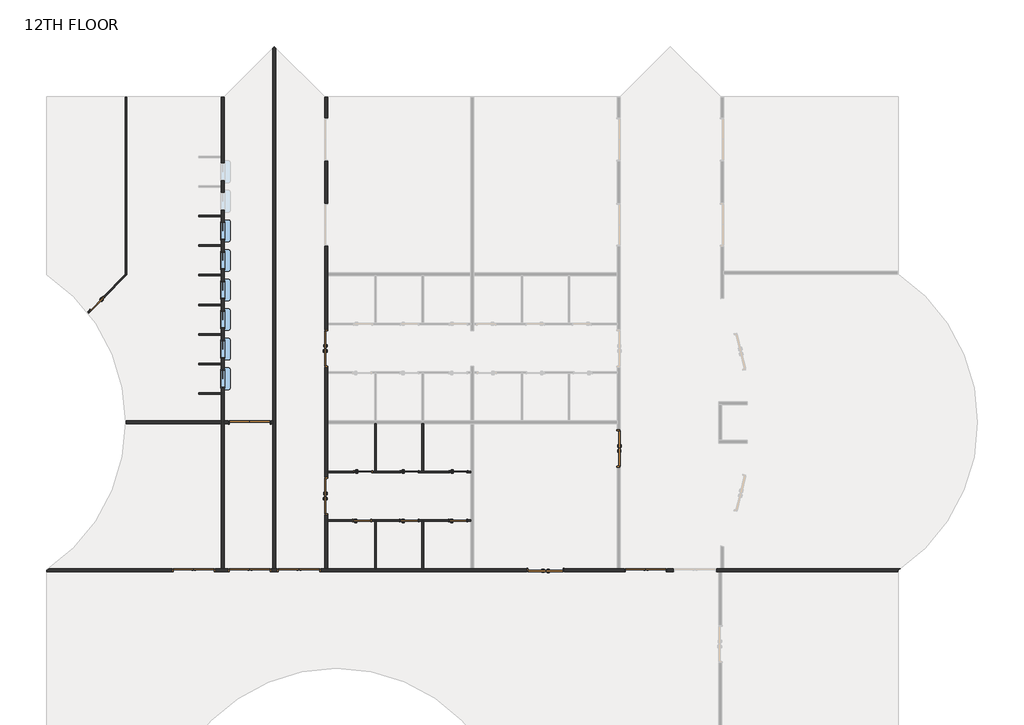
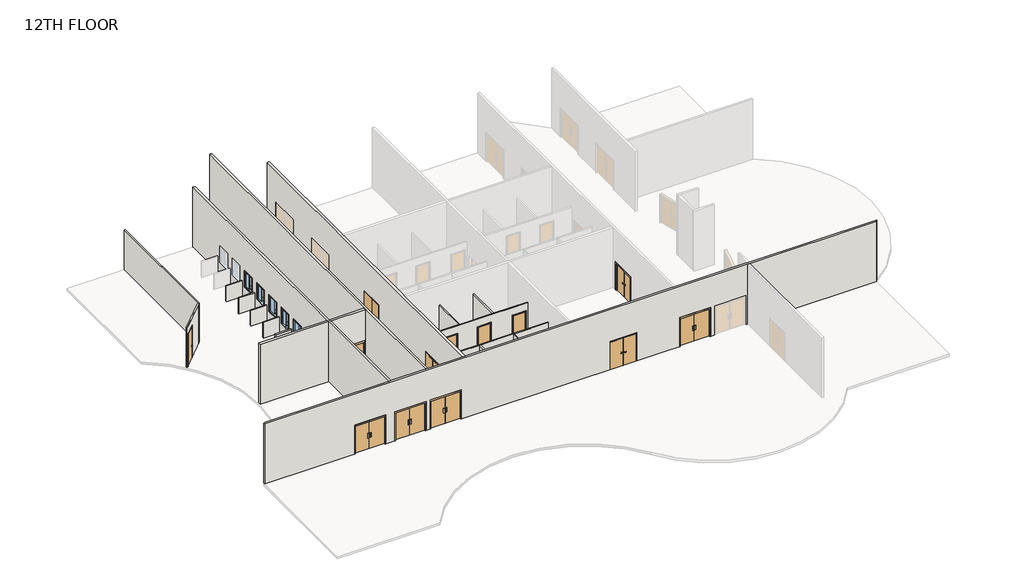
# One storey, part 1 of 2: 20 walls, 16 doors, 6 windows.
"""IFC4 building model written with IfcOpenShell, lengths in millimetres."""

from ifc_helpers import new_model, si_unit, point, frame, frame_2d, origin, place, context, project, spatial, polyline, circle_curve, trimmed, segment, composite_curve, outline, extrude, faceted_brep, transform, mapped, element, save
from ifc_brep_helpers import plane_surface, cylinder_surface, revolved_surface, advanced_brep
from components import door_2f250f70, door_0b13e4d9, door_b3a27a16, door_979b1b8c, door_f8b587be, pass_thru_4x3_19d81059

model = new_model("IFC4")

# Units and contexts
model_context = context("Model", 3, world=origin())
ifc_project = project(units=[si_unit("LENGTHUNIT", "METRE", prefix="MILLI")], contexts=[model_context])

# Site, building, storey
site = spatial("IfcSite", under=ifc_project)
building = spatial("IfcBuilding", under=site)
storey = spatial("IfcBuildingStorey", under=building, Name="12TH FLOOR", Elevation=54864.0)

# Doors
placement = place(None, origin())
door_shape = door_2f250f70(model_context)
element("IfcDoor", 1, ObjectType="Door-Passage-Double-Flush : 72\" x 82\"", at=placement, inside=storey, context=model_context, shape_type="MappedRepresentation", body=[
    mapped(door_shape, transform((14556.3400257, 13109.575, 54864.0), x_axis=(0.0, 1.0, 0.0), y_axis=(-1.0, 0.0, 0.0), z_axis=(0.0, 0.0, 1.0))),
])
element("IfcDoor", 2, ObjectType="Door-Passage-Double-Flush : 72\" x 82\"", at=placement, inside=storey, context=model_context, shape_type="MappedRepresentation", body=[
    mapped(door_shape, transform((14556.3400257, 20729.575, 54864.0), x_axis=(0.0, 1.0, 0.0), y_axis=(-1.0, 0.0, 0.0), z_axis=(0.0, 0.0, 1.0))),
])
element("IfcDoor", 3, ObjectType="Door-Passage-Double-Flush : 72\" x 82\"", at=placement, inside=storey, context=model_context, shape_type="MappedRepresentation", body=[
    mapped(door_shape, transform((25872.8337757, 9305.925, 54864.0), x_axis=(-1.0, 0.0, 0.0), y_axis=(0.0, -1.0, 0.0), z_axis=(0.0, 0.0, 1.0))),
])
element("IfcDoor", 4, ObjectType="Door-Passage-Double-Flush : 72\" x 82\"", at=placement, inside=storey, context=model_context, shape_type="MappedRepresentation", body=[
    mapped(door_shape, transform((29628.0650257, 15571.7875, 54864.0), x_axis=(0.0, -1.0, 0.0), y_axis=(1.0, 0.0, 0.0), z_axis=(0.0, 0.0, 1.0))),
])
door_2_shape = door_0b13e4d9(model_context)
element("IfcDoor", 5, ObjectType="Door-Passage-Double-Flush-Dbl_Acting : 84\" x 84\"", at=placement, inside=storey, context=model_context, shape_type="MappedRepresentation", body=[
    mapped(door_2_shape, transform((13151.4025257, 9293.225, 54864.0), x_axis=(-1.0, 0.0, 0.0), y_axis=(0.0, -1.0, 0.0), z_axis=(0.0, 0.0, 1.0))),
])
door_3_shape = door_b3a27a16(model_context)
element("IfcDoor", 6, ObjectType="Door-Passage-Double-Flush-Dbl_Acting : 84\" x 84\"", at=placement, inside=storey, context=model_context, shape_type="MappedRepresentation", body=[
    mapped(door_3_shape, transform((31033.0025257, 9293.225, 54864.0), x_axis=(1.0, 0.0, 0.0), y_axis=(0.0, 1.0, 0.0), z_axis=(0.0, 0.0, 1.0))),
])
element("IfcDoor", 7, ObjectType="Door-Passage-Double-Flush-Dbl_Acting : 84\" x 84\"", at=placement, inside=storey, context=model_context, shape_type="MappedRepresentation", body=[
    mapped(door_3_shape, transform((10620.375, 9293.225, 54864.0), x_axis=(1.0, 0.0, 0.0), y_axis=(0.0, 1.0, 0.0), z_axis=(0.0, 0.0, 1.0))),
])
element("IfcDoor", 8, ObjectType="Door-Passage-Double-Flush-Dbl_Acting : 84\" x 84\"", at=placement, inside=storey, context=model_context, shape_type="MappedRepresentation", body=[
    mapped(door_3_shape, transform((7730.5724743, 9293.225, 54864.0), x_axis=(1.0, 0.0, 0.0), y_axis=(0.0, 1.0, 0.0), z_axis=(0.0, 0.0, 1.0))),
])
element("IfcDoor", 9, ObjectType="Door-Passage-Double-Flush-Dbl_Acting : 84\" x 84\"", at=placement, inside=storey, context=model_context, shape_type="MappedRepresentation", body=[
    mapped(door_3_shape, transform((10620.375, 16913.225, 54864.0), x_axis=(1.0, 0.0, 0.0), y_axis=(0.0, 1.0, 0.0), z_axis=(0.0, 0.0, 1.0))),
])
door_4_shape = door_979b1b8c(model_context)
element("IfcDoor", 10, ObjectType="Door-Passage-Single-Flush : 36\" x 96\"", at=placement, inside=storey, context=model_context, shape_type="MappedRepresentation", body=[
    mapped(door_4_shape, transform((16456.5775257, 14357.35, 54864.0), x_axis=(1.0, 0.0, 0.0), y_axis=(0.0, 1.0, 0.0), z_axis=(0.0, 0.0, 1.0))),
])
element("IfcDoor", 11, ObjectType="Door-Passage-Single-Flush : 36\" x 96\"", at=placement, inside=storey, context=model_context, shape_type="MappedRepresentation", body=[
    mapped(door_4_shape, transform((18855.2900257, 14357.35, 54864.0), x_axis=(1.0, 0.0, 0.0), y_axis=(0.0, 1.0, 0.0), z_axis=(0.0, 0.0, 1.0))),
])
element("IfcDoor", 12, ObjectType="Door-Passage-Single-Flush : 36\" x 96\"", at=placement, inside=storey, context=model_context, shape_type="MappedRepresentation", body=[
    mapped(door_4_shape, transform((21373.0650257, 14357.35, 54864.0), x_axis=(1.0, 0.0, 0.0), y_axis=(0.0, 1.0, 0.0), z_axis=(0.0, 0.0, 1.0))),
])
element("IfcDoor", 13, ObjectType="Door-Passage-Single-Flush : 36\" x 96\"", at=placement, inside=storey, context=model_context, shape_type="MappedRepresentation", body=[
    mapped(door_4_shape, transform((2731.3607977, 23031.2061406, 54864.0), x_axis=(-0.7071067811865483, -0.7071067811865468, 0.0), y_axis=(0.7071067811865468, -0.7071067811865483, 0.0), z_axis=(0.0, 0.0, 1.0))),
])
door_5_shape = door_f8b587be(model_context)
element("IfcDoor", 14, ObjectType="Door-Passage-Single-Flush : 36\" x 96\"", at=placement, inside=storey, context=model_context, shape_type="MappedRepresentation", body=[
    mapped(door_5_shape, transform((16405.7775257, 11861.8, 54864.0), x_axis=(1.0, 0.0, 0.0), y_axis=(0.0, 1.0, 0.0), z_axis=(0.0, 0.0, 1.0))),
])
element("IfcDoor", 15, ObjectType="Door-Passage-Single-Flush : 36\" x 96\"", at=placement, inside=storey, context=model_context, shape_type="MappedRepresentation", body=[
    mapped(door_5_shape, transform((18836.2400257, 11861.8, 54864.0), x_axis=(1.0, 0.0, 0.0), y_axis=(0.0, 1.0, 0.0), z_axis=(0.0, 0.0, 1.0))),
])
element("IfcDoor", 16, ObjectType="Door-Passage-Single-Flush : 36\" x 96\"", at=placement, inside=storey, context=model_context, shape_type="MappedRepresentation", body=[
    mapped(door_5_shape, transform((21354.0150257, 11861.8, 54864.0), x_axis=(1.0, 0.0, 0.0), y_axis=(0.0, 1.0, 0.0), z_axis=(0.0, 0.0, 1.0))),
])

# Walls
element("IfcWall", 17, ObjectType="SYR_INT_ONE_HOUR", at=placement, inside=storey, context=model_context, shape_type="SweptSolid", body=[
    extrude(outline(polyline([(17066.1775257, 14403.3875), (17066.1775257, 16841.7875), (17145.5525257, 16841.7875), (17145.5525257, 14403.3875), (17066.1775257, 14403.3875)])), frame((0.0, 0.0, 54864.0), z_axis=(0.0, 0.0, 1.0), x_axis=(1.0, 0.0, 0.0)), (0.0, 0.0, 1.0), 3048.0),
])
element("IfcWall", 18, ObjectType="SYR_INT_ONE_HOUR", at=placement, inside=storey, context=model_context, shape_type="SweptSolid", body=[
    extrude(outline(polyline([(19576.0150257, 11815.7625), (19576.0150257, 9377.3625), (19496.6400257, 9377.3625), (19496.6400257, 11815.7625), (19576.0150257, 11815.7625)])), frame((0.0, 0.0, 54864.0), z_axis=(0.0, 0.0, 1.0), x_axis=(1.0, 0.0, 0.0)), (0.0, 0.0, 1.0), 3048.0),
])
element("IfcWall", 19, ObjectType="SYR_INT_ONE_HOUR", at=placement, inside=storey, context=model_context, shape_type="Brep", body=[
    faceted_brep([(14627.7775257, 14403.3875, 57912.0), (17066.1775257, 14403.3875, 57912.0), (17145.5525257, 14403.3875, 57912.0), (19496.6400257, 14403.3875, 57912.0), (19576.0150257, 14403.3875, 57912.0), (22014.4150257, 14403.3875, 57912.0), (22014.4150257, 14403.3875, 54864.0), (21862.0150257, 14403.3875, 54864.0), (21862.0150257, 14403.3875, 57334.15), (20884.1150257, 14403.3875, 57334.15), (20884.1150257, 14403.3875, 54864.0), (19576.0150257, 14403.3875, 54864.0), (19496.6400257, 14403.3875, 54864.0), (19344.2400257, 14403.3875, 54864.0), (19344.2400257, 14403.3875, 57334.15), (18366.3400257, 14403.3875, 57334.15), (18366.3400257, 14403.3875, 54864.0), (17145.5525257, 14403.3875, 54864.0), (17066.1775257, 14403.3875, 54864.0), (16945.5275257, 14403.3875, 54864.0), (16945.5275257, 14403.3875, 57334.15), (15967.6275257, 14403.3875, 57334.15), (15967.6275257, 14403.3875, 54864.0), (14627.7775257, 14403.3875, 54864.0), (22014.4150257, 14324.0125, 57912.0), (14627.7775257, 14324.0125, 57912.0), (14627.7775257, 14324.0125, 54864.0), (15967.6275257, 14324.0125, 54864.0), (15967.6275257, 14324.0125, 57334.15), (16945.5275257, 14324.0125, 57334.15), (16945.5275257, 14324.0125, 54864.0), (18366.3400257, 14324.0125, 54864.0), (18366.3400257, 14324.0125, 57334.15), (19344.2400257, 14324.0125, 57334.15), (19344.2400257, 14324.0125, 54864.0), (20884.1150257, 14324.0125, 54864.0), (20884.1150257, 14324.0125, 57334.15), (21862.0150257, 14324.0125, 57334.15), (21862.0150257, 14324.0125, 54864.0), (22014.4150257, 14324.0125, 54864.0)], [[[0, 1, 2, 3, 4, 5, 6, 7, 8, 9, 10, 11, 12, 13, 14, 15, 16, 17, 18, 19, 20, 21, 22, 23]], [[24, 25, 26, 27, 28, 29, 30, 31, 32, 33, 34, 35, 36, 37, 38, 39]], [[6, 39, 38, 7]], [[26, 23, 22, 27]], [[30, 19, 18, 17, 16, 31]], [[34, 13, 12, 11, 10, 35]], [[5, 4, 3, 2, 1, 0, 25, 24]], [[0, 23, 26, 25]], [[6, 5, 24, 39]], [[29, 20, 19, 30]], [[20, 29, 28, 21]], [[21, 28, 27, 22]], [[14, 13, 34, 33]], [[15, 14, 33, 32]], [[16, 15, 32, 31]], [[37, 8, 7, 38]], [[8, 37, 36, 9]], [[9, 36, 35, 10]]]),
])
element("IfcWall", 20, ObjectType="SYR_INT_ONE_HOUR", at=placement, inside=storey, context=model_context, shape_type="Brep", body=[
    faceted_brep([(14627.7775257, 11895.1375, 57912.0), (22014.4150257, 11895.1375, 57912.0), (22014.4150257, 11895.1375, 54864.0), (21842.9650257, 11895.1375, 54864.0), (21842.9650257, 11895.1375, 57334.15), (20865.0650257, 11895.1375, 57334.15), (20865.0650257, 11895.1375, 54864.0), (19325.1900257, 11895.1375, 54864.0), (19325.1900257, 11895.1375, 57334.15), (18347.2900257, 11895.1375, 57334.15), (18347.2900257, 11895.1375, 54864.0), (16894.7275257, 11895.1375, 54864.0), (16894.7275257, 11895.1375, 57334.15), (15916.8275257, 11895.1375, 57334.15), (15916.8275257, 11895.1375, 54864.0), (14627.7775257, 11895.1375, 54864.0), (22014.4150257, 11815.7625, 57912.0), (19576.0150257, 11815.7625, 57912.0), (19496.6400257, 11815.7625, 57912.0), (17145.5525257, 11815.7625, 57912.0), (17066.1775257, 11815.7625, 57912.0), (14627.7775257, 11815.7625, 57912.0), (14627.7775257, 11815.7625, 54864.0), (15916.8275257, 11815.7625, 54864.0), (15916.8275257, 11815.7625, 57334.15), (16894.7275257, 11815.7625, 57334.15), (16894.7275257, 11815.7625, 54864.0), (17066.1775257, 11815.7625, 54864.0), (17145.5525257, 11815.7625, 54864.0), (18347.2900257, 11815.7625, 54864.0), (18347.2900257, 11815.7625, 57334.15), (19325.1900257, 11815.7625, 57334.15), (19325.1900257, 11815.7625, 54864.0), (19496.6400257, 11815.7625, 54864.0), (19576.0150257, 11815.7625, 54864.0), (20865.0650257, 11815.7625, 54864.0), (20865.0650257, 11815.7625, 57334.15), (21842.9650257, 11815.7625, 57334.15), (21842.9650257, 11815.7625, 54864.0), (22014.4150257, 11815.7625, 54864.0)], [[[0, 1, 2, 3, 4, 5, 6, 7, 8, 9, 10, 11, 12, 13, 14, 15]], [[16, 17, 18, 19, 20, 21, 22, 23, 24, 25, 26, 27, 28, 29, 30, 31, 32, 33, 34, 35, 36, 37, 38, 39]], [[2, 39, 38, 3]], [[22, 15, 14, 23]], [[26, 11, 10, 29, 28, 27]], [[32, 7, 6, 35, 34, 33]], [[1, 0, 21, 20, 19, 18, 17, 16]], [[0, 15, 22, 21]], [[2, 1, 16, 39]], [[25, 12, 11, 26]], [[12, 25, 24, 13]], [[13, 24, 23, 14]], [[31, 8, 7, 32]], [[8, 31, 30, 9]], [[9, 30, 29, 10]], [[37, 4, 3, 38]], [[4, 37, 36, 5]], [[5, 36, 35, 6]]]),
])
element("IfcWall", 21, ObjectType="SYR_INT_ONE_HOUR", at=placement, inside=storey, context=model_context, shape_type="SweptSolid", body=[
    extrude(outline(polyline([(17066.1775257, 9377.3625), (17066.1775257, 11815.7625), (17145.5525257, 11815.7625), (17145.5525257, 9377.3625), (17066.1775257, 9377.3625)])), frame((0.0, 0.0, 54864.0), z_axis=(0.0, 0.0, 1.0), x_axis=(1.0, 0.0, 0.0)), (0.0, 0.0, 1.0), 3048.0),
])
element("IfcWall", 22, ObjectType="SYR_INT_ONE_HOUR", at=placement, inside=storey, context=model_context, shape_type="SweptSolid", body=[
    extrude(outline(polyline([(19576.0150257, 16841.7875), (19576.0150257, 14403.3875), (19496.6400257, 14403.3875), (19496.6400257, 16841.7875), (19576.0150257, 16841.7875)])), frame((0.0, 0.0, 54864.0), z_axis=(0.0, 0.0, 1.0), x_axis=(1.0, 0.0, 0.0)), (0.0, 0.0, 1.0), 3048.0),
])
element("IfcWall", 23, ObjectType="SYR_INT_ONE_HOUR", at=placement, inside=storey, context=model_context, shape_type="SweptSolid", body=[
    extrude(outline(polyline([(7979.2710938, 18443.575), (9144.0, 18443.575), (9144.0, 18364.2), (7979.2710938, 18364.2), (7979.2710938, 18443.575)])), frame((0.0, 0.0, 54864.0), z_axis=(0.0, 0.0, 1.0), x_axis=(1.0, 0.0, 0.0)), (0.0, 0.0, 1.0), 1219.2),
])
element("IfcWall", 24, ObjectType="SYR_INT_ONE_HOUR", at=placement, inside=storey, context=model_context, shape_type="SweptSolid", body=[
    extrude(outline(polyline([(7979.2710938, 19967.575), (9144.0, 19967.575), (9144.0, 19888.2), (7979.2710938, 19888.2), (7979.2710938, 19967.575)])), frame((0.0, 0.0, 54864.0), z_axis=(0.0, 0.0, 1.0), x_axis=(1.0, 0.0, 0.0)), (0.0, 0.0, 1.0), 1219.2),
])
element("IfcWall", 25, ObjectType="SYR_INT_ONE_HOUR", at=placement, inside=storey, context=model_context, shape_type="SweptSolid", body=[
    extrude(outline(polyline([(7979.2710938, 21491.575), (9144.0, 21491.575), (9144.0, 21412.2), (7979.2710938, 21412.2), (7979.2710938, 21491.575)])), frame((0.0, 0.0, 54864.0), z_axis=(0.0, 0.0, 1.0), x_axis=(1.0, 0.0, 0.0)), (0.0, 0.0, 1.0), 1219.2),
])
element("IfcWall", 26, ObjectType="SYR_INT_ONE_HOUR", at=placement, inside=storey, context=model_context, shape_type="SweptSolid", body=[
    extrude(outline(polyline([(7979.2710938, 23015.575), (9144.0, 23015.575), (9144.0, 22936.2), (7979.2710938, 22936.2), (7979.2710938, 23015.575)])), frame((0.0, 0.0, 54864.0), z_axis=(0.0, 0.0, 1.0), x_axis=(1.0, 0.0, 0.0)), (0.0, 0.0, 1.0), 1219.2),
])
element("IfcWall", 27, ObjectType="SYR_INT_ONE_HOUR", at=placement, inside=storey, context=model_context, shape_type="SweptSolid", body=[
    extrude(outline(polyline([(7979.2710938, 24539.575), (9144.0, 24539.575), (9144.0, 24460.2), (7979.2710938, 24460.2), (7979.2710938, 24539.575)])), frame((0.0, 0.0, 54864.0), z_axis=(0.0, 0.0, 1.0), x_axis=(1.0, 0.0, 0.0)), (0.0, 0.0, 1.0), 1219.2),
])
element("IfcWall", 28, ObjectType="SYR_INT_ONE_HOUR", at=placement, inside=storey, context=model_context, shape_type="SweptSolid", body=[
    extrude(outline(polyline([(7979.2710938, 26063.575), (9144.0, 26063.575), (9144.0, 25984.2), (7979.2710938, 25984.2), (7979.2710938, 26063.575)])), frame((0.0, 0.0, 54864.0), z_axis=(0.0, 0.0, 1.0), x_axis=(1.0, 0.0, 0.0)), (0.0, 0.0, 1.0), 1219.2),
])
element("IfcWall", 29, ObjectType="SYR_INT_ONE_HOUR", at=placement, inside=storey, context=model_context, shape_type="SweptSolid", body=[
    extrude(outline(polyline([(7979.2710938, 27587.575), (9144.0, 27587.575), (9144.0, 27508.2), (7979.2710938, 27508.2), (7979.2710938, 27587.575)])), frame((0.0, 0.0, 54864.0), z_axis=(0.0, 0.0, 1.0), x_axis=(1.0, 0.0, 0.0)), (0.0, 0.0, 1.0), 1219.2),
])
element("IfcWall", 30, ObjectType="SYR_INT_ONE_HOUR", at=placement, inside=storey, context=model_context, shape_type="Brep", body=[
    faceted_brep([(4209.0224132, 33683.575, 54864.0), (4209.0224132, 24556.0141008, 54864.0), (4209.0224132, 24443.7608992, 54864.0), (4209.0224132, 24443.7608992, 57912.0), (4209.0224132, 24556.0141008, 57912.0), (4209.0224132, 33683.575, 57912.0), (4288.3974132, 33683.575, 54864.0), (4288.3974132, 33683.575, 57912.0), (4288.3974132, 24523.1358992, 57912.0), (4288.3974132, 24523.1358992, 54864.0)], [[[0, 1, 2, 3, 4, 5]], [[6, 7, 8, 9]], [[2, 1, 0, 6, 9]], [[5, 4, 3, 8, 7]], [[3, 2, 9, 8]], [[0, 5, 7, 6]]]),
])
element("IfcWall", 31, ObjectType="SYR_INT_ONE_HOUR", at=placement, inside=storey, context=model_context, shape_type="AdvancedBrep", body=[
    advanced_brep(
    [(2260.5955581, 22607.5872456, 57912.0), (4209.0224132, 24556.0141008, 57912.0), (4209.0224132, 24556.0141008, 54864.0), (3053.527486, 23400.5191735, 54864.0), (3053.527486, 23400.5191735, 57334.15), (2362.0477647, 22709.0394522, 57334.15), (2362.0477647, 22709.0394522, 54864.0), (2260.5955581, 22607.5872456, 54864.0), (4209.0224132, 24443.7608992, 57912.0), (2310.04482, 22544.783306, 57912.0), (2310.04482, 22544.783306, 54864.0), (2418.1743655, 22652.9128515, 54864.0), (2418.1743655, 22652.9128515, 57334.15), (3109.6540868, 23344.3925728, 57334.15), (3109.6540868, 23344.3925728, 54864.0), (4209.0224132, 24443.7608992, 54864.0)],
    [
        (0, 1),
        (1, 2),
        (2, 3),
        (3, 4),
        (4, 5),
        (5, 6),
        (6, 7),
        (7, 0),
        (8, 9),
        (9, 10),
        (10, 11),
        (11, 12),
        (12, 13),
        (13, 14),
        (14, 15),
        (15, 8),
        (2, 15),
        (14, 3),
        (10, 7, circle_curve(frame((-4898.9611805, 16919.575, 54864.0), z_axis=(0.0, 0.0, 1.0), x_axis=(1.0, 0.0, 0.0)), 9144.0)),
        (6, 11),
        (0, 9, circle_curve(frame((-4898.9611805, 16919.575, 57912.0), z_axis=(0.0, 0.0, -1.0), x_axis=(1.0, 0.0, 0.0)), 9144.0)),
        (8, 1),
        (5, 12),
        (4, 13),
    ],
    [
        plane_surface(frame((4220.6466129, 24567.6383004, 54864.0), z_axis=(-0.7071067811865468, 0.7071067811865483, 0.0), x_axis=(-0.7071067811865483, -0.7071067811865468, 0.0))),
        plane_surface(frame((4276.7732136, 24511.5116996, 54864.0), z_axis=(0.7071067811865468, -0.7071067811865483, 0.0), x_axis=(0.7071067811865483, 0.7071067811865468, 0.0))),
        plane_surface(frame((4220.6466129, 24567.6383004, 54864.0), z_axis=(0.0, 0.0, -1.0), x_axis=(0.7071067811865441, -0.7071067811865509, 0.0))),
        plane_surface(frame((2146.5216178, 22493.5133053, 57912.0), z_axis=(0.0, 0.0, 1.0000000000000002), x_axis=(0.7071067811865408, -0.7071067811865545, 0.0))),
        plane_surface(frame((4209.0224132, 33778.5769531, 54864.0), z_axis=(1.0, 0.0, 0.0), x_axis=(0.0, -1.0, 0.0))),
        plane_surface(frame((1284.4170302, 23786.6701867, 54864.0), z_axis=(0.7071067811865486, 0.7071067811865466, 0.0), x_axis=(0.7071067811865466, -0.7071067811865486, 0.0))),
        plane_surface(frame((1284.4170302, 23786.6701867, 57334.15), z_axis=(0.0, 0.0, -1.0), x_axis=(0.7071067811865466, -0.7071067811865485, 0.0))),
        plane_surface(frame((1975.8967515, 24478.1499081, 57334.15), z_axis=(-0.7071067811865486, -0.7071067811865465, 0.0), x_axis=(0.7071067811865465, -0.7071067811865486, 0.0))),
        revolved_surface(polyline([(4245.0388195, 16919.575, 57912.0), (4245.0388195, 16919.575, 54864.0)]), (-4898.9611805, 16919.575, 0.0), (0.0, 0.0, 1.0)),
    ],
    [
        (0, [[1, 2, 3, 4, 5, 6, 7, 8]]),
        (1, [[9, 10, 11, 12, 13, 14, 15, 16]]),
        (2, [[17, -15, 18, -3]]),
        (2, [[19, -7, 20, -11]]),
        (3, [[-1, 21, -9, 22]]),
        (4, [[-2, -22, -16, -17]]),
        (5, [[23, -12, -20, -6]]),
        (6, [[-23, -5, 24, -13]]),
        (7, [[-24, -4, -18, -14]]),
        (8, [[-8, -19, -10, -21]]),
    ],
),
])
element("IfcWall", 32, ObjectType="SYR_INT_TWO_HOUR", at=placement, inside=storey, context=model_context, shape_type="AdvancedBrep", body=[
    advanced_brep(
    [(270.9292057, 9377.3625, 59436.0), (9144.0, 9377.3625, 59436.0), (9299.575, 9377.3625, 59436.0), (11808.1012629, 9377.3625, 59436.0), (11963.6762629, 9377.3625, 59436.0), (14472.2025257, 9377.3625, 59436.0), (14627.7775257, 9377.3625, 59436.0), (22014.4150257, 9377.3625, 59436.0), (22169.9900257, 9377.3625, 59436.0), (29556.6275257, 9377.3625, 59436.0), (29712.2025257, 9377.3625, 59436.0), (34884.8300515, 9377.3625, 59436.0), (35040.4050515, 9377.3625, 59436.0), (44144.1842571, 9377.3625, 59436.0), (44144.1842571, 9377.3625, 54864.0), (35040.4050515, 9377.3625, 54864.0), (34884.8300515, 9377.3625, 54864.0), (34681.6300515, 9377.3625, 54864.0), (34681.6300515, 9377.3625, 57099.2), (32446.4300515, 9377.3625, 57099.2), (32446.4300515, 9377.3625, 54864.0), (32150.6025257, 9377.3625, 54864.0), (32150.6025257, 9377.3625, 57099.2), (29915.4025257, 9377.3625, 57099.2), (29915.4025257, 9377.3625, 54864.0), (29712.2025257, 9377.3625, 54864.0), (29556.6275257, 9377.3625, 54864.0), (26838.0337757, 9377.3625, 54864.0), (26838.0337757, 9377.3625, 57048.4), (24907.6337757, 9377.3625, 57048.4), (24907.6337757, 9377.3625, 54864.0), (22169.9900257, 9377.3625, 54864.0), (22014.4150257, 9377.3625, 54864.0), (19576.0150257, 9377.3625, 54864.0), (19496.6400257, 9377.3625, 54864.0), (17145.5525257, 9377.3625, 54864.0), (17066.1775257, 9377.3625, 54864.0), (14627.7775257, 9377.3625, 54864.0), (14472.2025257, 9377.3625, 54864.0), (14269.0025257, 9377.3625, 54864.0), (14269.0025257, 9377.3625, 57099.2), (12033.8025257, 9377.3625, 57099.2), (12033.8025257, 9377.3625, 54864.0), (11963.6762629, 9377.3625, 54864.0), (11808.1012629, 9377.3625, 54864.0), (11737.975, 9377.3625, 54864.0), (11737.975, 9377.3625, 57099.2), (9502.775, 9377.3625, 57099.2), (9502.775, 9377.3625, 54864.0), (9299.575, 9377.3625, 54864.0), (9144.0, 9377.3625, 54864.0), (8848.1724743, 9377.3625, 54864.0), (8848.1724743, 9377.3625, 57099.2), (6612.9724743, 9377.3625, 57099.2), (6612.9724743, 9377.3625, 54864.0), (270.9292057, 9377.3625, 54864.0), (155.575, 9221.7875, 59436.0), (155.575, 9221.7875, 54864.0), (6612.9724743, 9221.7875, 54864.0), (6612.9724743, 9221.7875, 57099.2), (8848.1724743, 9221.7875, 57099.2), (8848.1724743, 9221.7875, 54864.0), (9502.775, 9221.7875, 54864.0), (9502.775, 9221.7875, 57099.2), (11737.975, 9221.7875, 57099.2), (11737.975, 9221.7875, 54864.0), (12033.8025257, 9221.7875, 54864.0), (12033.8025257, 9221.7875, 57099.2), (14269.0025257, 9221.7875, 57099.2), (14269.0025257, 9221.7875, 54864.0), (24907.6337757, 9221.7875, 54864.0), (24907.6337757, 9221.7875, 57048.4), (26838.0337757, 9221.7875, 57048.4), (26838.0337757, 9221.7875, 54864.0), (29915.4025257, 9221.7875, 54864.0), (29915.4025257, 9221.7875, 57099.2), (32150.6025257, 9221.7875, 57099.2), (32150.6025257, 9221.7875, 54864.0), (32446.4300515, 9221.7875, 54864.0), (32446.4300515, 9221.7875, 57099.2), (34681.6300515, 9221.7875, 57099.2), (34681.6300515, 9221.7875, 54864.0), (34803.3714577, 9221.7875, 54864.0), (34958.9464577, 9221.7875, 54864.0), (44028.8300515, 9221.7875, 54864.0), (44028.8300515, 9221.7875, 59436.0), (34958.9464577, 9221.7875, 59436.0), (34803.3714577, 9221.7875, 59436.0), (44028.8300515, 9299.575, 54864.0), (155.575, 9299.575, 54864.0), (155.575, 9299.575, 59436.0), (44028.8300515, 9299.575, 59436.0)],
    [
        (0, 1),
        (1, 2),
        (2, 3),
        (3, 4),
        (4, 5),
        (5, 6),
        (6, 7),
        (7, 8),
        (8, 9),
        (9, 10),
        (10, 11),
        (11, 12),
        (12, 13),
        (13, 14),
        (14, 15),
        (15, 16),
        (16, 17),
        (17, 18),
        (18, 19),
        (19, 20),
        (20, 21),
        (21, 22),
        (22, 23),
        (23, 24),
        (24, 25),
        (25, 26),
        (26, 27),
        (27, 28),
        (28, 29),
        (29, 30),
        (30, 31),
        (31, 32),
        (32, 33),
        (33, 34),
        (34, 35),
        (35, 36),
        (36, 37),
        (37, 38),
        (38, 39),
        (39, 40),
        (40, 41),
        (41, 42),
        (42, 43),
        (43, 44),
        (44, 45),
        (45, 46),
        (46, 47),
        (47, 48),
        (48, 49),
        (49, 50),
        (50, 51),
        (51, 52),
        (52, 53),
        (53, 54),
        (54, 55),
        (55, 0),
        (56, 57),
        (57, 58),
        (58, 59),
        (59, 60),
        (60, 61),
        (61, 62),
        (62, 63),
        (63, 64),
        (64, 65),
        (65, 66),
        (66, 67),
        (67, 68),
        (68, 69),
        (69, 70),
        (70, 71),
        (71, 72),
        (72, 73),
        (73, 74),
        (74, 75),
        (75, 76),
        (76, 77),
        (77, 78),
        (78, 79),
        (79, 80),
        (80, 81),
        (81, 82),
        (82, 83),
        (83, 84),
        (84, 85),
        (85, 86),
        (86, 87),
        (87, 56),
        (20, 78),
        (77, 21),
        (81, 17),
        (14, 88, circle_curve(frame((38974.293871, 16919.575, 54864.0), z_axis=(0.0, 0.0, -1.0), x_axis=(0.8333333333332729, 0.5527707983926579, 0.0)), 9144.0)),
        (88, 84),
        (24, 74),
        (73, 27),
        (42, 66),
        (65, 45),
        (69, 39),
        (30, 70),
        (48, 62),
        (61, 51),
        (54, 58),
        (57, 89),
        (89, 55, circle_curve(frame((-4898.9611805, 16919.575, 54864.0), z_axis=(0.0, 0.0, 1.0), x_axis=(0.8333333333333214, 0.5527707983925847, 0.0)), 9144.0)),
        (0, 90, circle_curve(frame((-4898.9611805, 16919.575, 59436.0), z_axis=(0.0, 0.0, -1.0), x_axis=(0.8333333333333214, 0.5527707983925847, 0.0)), 9144.0)),
        (90, 56),
        (85, 91),
        (91, 13, circle_curve(frame((38974.293871, 16919.575, 59436.0), z_axis=(0.0, 0.0, 1.0), x_axis=(0.8333333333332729, 0.5527707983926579, 0.0)), 9144.0)),
        (19, 79),
        (18, 80),
        (76, 22),
        (75, 23),
        (41, 67),
        (40, 68),
        (64, 46),
        (63, 47),
        (60, 52),
        (59, 53),
        (29, 71),
        (28, 72),
        (89, 90),
        (91, 88),
    ],
    [
        plane_surface(frame((44028.8300515, 9377.3625, 54864.0), z_axis=(0.0, 1.0, 0.0), x_axis=(-1.0, 0.0, 0.0))),
        plane_surface(frame((44028.8300515, 9221.7875, 54864.0), z_axis=(0.0, -1.0, 0.0), x_axis=(1.0, 0.0, 0.0))),
        plane_surface(frame((44305.118871, 9377.3625, 54864.0), z_axis=(0.0, 0.0, -1.0), x_axis=(0.0, -1.0, 0.0))),
        plane_surface(frame((0.0, 9377.3625, 59436.0), z_axis=(0.0, 0.0, 1.0), x_axis=(0.0, -1.0, 0.0))),
        plane_surface(frame((32446.4300515, 10745.7875, 54864.0), z_axis=(1.0, 0.0, 0.0), x_axis=(0.0, -1.0, 0.0))),
        plane_surface(frame((32446.4300515, 10745.7875, 57099.2), z_axis=(0.0, 0.0, -1.0), x_axis=(0.0, -1.0, 0.0))),
        plane_surface(frame((34681.6300515, 10745.7875, 57099.2), z_axis=(-1.0, 0.0, 0.0), x_axis=(0.0, -1.0, 0.0))),
        plane_surface(frame((32150.6025257, 7697.7875, 54864.0), z_axis=(-1.0, 0.0, 0.0), x_axis=(0.0, 1.0, 0.0))),
        plane_surface(frame((32150.6025257, 7697.7875, 57099.2), z_axis=(0.0, 0.0, -1.0), x_axis=(0.0, 1.0, 0.0))),
        plane_surface(frame((29915.4025257, 7697.7875, 57099.2), z_axis=(1.0, 0.0, 0.0), x_axis=(0.0, 1.0, 0.0))),
        plane_surface(frame((12033.8025257, 10745.7875, 54864.0), z_axis=(1.0, 0.0, 0.0), x_axis=(0.0, -1.0, 0.0))),
        plane_surface(frame((12033.8025257, 10745.7875, 57099.2), z_axis=(0.0, 0.0, -1.0), x_axis=(0.0, -1.0, 0.0))),
        plane_surface(frame((14269.0025257, 10745.7875, 57099.2), z_axis=(-1.0, 0.0, 0.0), x_axis=(0.0, -1.0, 0.0))),
        plane_surface(frame((11737.975, 7697.7875, 54864.0), z_axis=(-1.0, 0.0, 0.0), x_axis=(0.0, 1.0, 0.0))),
        plane_surface(frame((11737.975, 7697.7875, 57099.2), z_axis=(0.0, 0.0, -1.0), x_axis=(0.0, 1.0, 0.0))),
        plane_surface(frame((9502.775, 7697.7875, 57099.2), z_axis=(1.0, 0.0, 0.0), x_axis=(0.0, 1.0, 0.0))),
        plane_surface(frame((8848.1724743, 7697.7875, 54864.0), z_axis=(-1.0, 0.0, 0.0), x_axis=(0.0, 1.0, 0.0))),
        plane_surface(frame((8848.1724743, 7697.7875, 57099.2), z_axis=(0.0, 0.0, -1.0), x_axis=(0.0, 1.0, 0.0))),
        plane_surface(frame((6612.9724743, 7697.7875, 57099.2), z_axis=(1.0, 0.0, 0.0), x_axis=(0.0, 1.0, 0.0))),
        plane_surface(frame((24907.6337757, 10901.3625, 54864.0), z_axis=(1.0, 0.0, 0.0), x_axis=(0.0, -1.0, 0.0))),
        plane_surface(frame((24907.6337757, 10901.3625, 57048.4), z_axis=(0.0, 0.0, -1.0), x_axis=(0.0, -1.0, 0.0))),
        plane_surface(frame((26838.0337757, 10901.3625, 57048.4), z_axis=(-1.0, 0.0, 0.0), x_axis=(0.0, -1.0, 0.0))),
        revolved_surface(polyline([(2721.0388194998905, 21974.111180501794, 59436.0), (2721.0388194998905, 21974.111180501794, 54864.0)]), (-4898.9611805, 16919.575, 54635.4), (0.0, 0.0, 1.0)),
        plane_surface(frame((155.575, -12852.9844355, 54635.4), z_axis=(-1.0, 0.0, 0.0), x_axis=(0.0, -1.0, 0.0))),
        cylinder_surface(frame((38974.293871, 16919.575, 54635.4), z_axis=(0.0, 0.0, 1.0), x_axis=(0.8333333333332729, 0.5527707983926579, 0.0)), 9144.0),
        plane_surface(frame((44028.8300515, -12852.9844355, 54635.4), z_axis=(1.0, 0.0, 0.0), x_axis=(0.0, 1.0, 0.0))),
    ],
    [
        (0, [[1, 2, 3, 4, 5, 6, 7, 8, 9, 10, 11, 12, 13, 14, 15, 16, 17, 18, 19, 20, 21, 22, 23, 24, 25, 26, 27, 28, 29, 30, 31, 32, 33, 34, 35, 36, 37, 38, 39, 40, 41, 42, 43, 44, 45, 46, 47, 48, 49, 50, 51, 52, 53, 54, 55, 56]]),
        (1, [[57, 58, 59, 60, 61, 62, 63, 64, 65, 66, 67, 68, 69, 70, 71, 72, 73, 74, 75, 76, 77, 78, 79, 80, 81, 82, 83, 84, 85, 86, 87, 88]]),
        (2, [[89, -78, 90, -21]]),
        (2, [[91, -17, -16, -15, 92, 93, -84, -83, -82]]),
        (2, [[94, -74, 95, -27, -26, -25]]),
        (2, [[96, -66, 97, -45, -44, -43]]),
        (2, [[98, -39, -38, -37, -36, -35, -34, -33, -32, -31, 99, -70]]),
        (2, [[100, -62, 101, -51, -50, -49]]),
        (2, [[-55, 102, -58, 103, 104]]),
        (3, [[-13, -12, -11, -10, -9, -8, -7, -6, -5, -4, -3, -2, -1, 105, 106, -88, -87, -86, 107, 108]]),
        (4, [[109, -79, -89, -20]]),
        (5, [[-109, -19, 110, -80]]),
        (6, [[-110, -18, -91, -81]]),
        (7, [[111, -22, -90, -77]]),
        (8, [[-111, -76, 112, -23]]),
        (9, [[-112, -75, -94, -24]]),
        (10, [[113, -67, -96, -42]]),
        (11, [[-113, -41, 114, -68]]),
        (12, [[-114, -40, -98, -69]]),
        (13, [[115, -46, -97, -65]]),
        (14, [[-115, -64, 116, -47]]),
        (15, [[-116, -63, -100, -48]]),
        (16, [[117, -52, -101, -61]]),
        (17, [[-117, -60, 118, -53]]),
        (18, [[-118, -59, -102, -54]]),
        (19, [[119, -71, -99, -30]]),
        (20, [[-119, -29, 120, -72]]),
        (21, [[-120, -28, -95, -73]]),
        (22, [[-56, -104, 121, -105]]),
        (23, [[-57, -106, -121, -103]]),
        (24, [[-14, -108, 122, -92]]),
        (25, [[-85, -93, -122, -107]]),
    ],
),
])
element("IfcWall", 33, ObjectType="SYR_INT_TWO_HOUR", at=placement, inside=storey, context=model_context, shape_type="Brep", body=[
    faceted_brep([(9144.0, 33683.575, 54864.0), (9144.0, 30635.575, 54864.0), (9144.0, 30556.2, 54864.0), (9144.0, 29111.575, 54864.0), (9144.0, 29032.2, 54864.0), (9144.0, 27587.575, 54864.0), (9144.0, 27508.2, 54864.0), (9144.0, 26063.575, 54864.0), (9144.0, 25984.2, 54864.0), (9144.0, 24539.575, 54864.0), (9144.0, 24460.2, 54864.0), (9144.0, 23015.575, 54864.0), (9144.0, 22936.2, 54864.0), (9144.0, 21491.575, 54864.0), (9144.0, 21412.2, 54864.0), (9144.0, 19967.575, 54864.0), (9144.0, 19888.2, 54864.0), (9144.0, 18443.575, 54864.0), (9144.0, 18364.2, 54864.0), (9144.0, 16997.3625, 54864.0), (9144.0, 16841.7875, 54864.0), (9144.0, 9377.3625, 54864.0), (9144.0, 9377.3625, 59436.0), (9144.0, 16841.7875, 59436.0), (9144.0, 16997.3625, 59436.0), (9144.0, 33683.575, 59436.0), (9144.0, 19623.0875, 56997.6), (9144.0, 18708.6875, 56997.6), (9144.0, 18708.6875, 55778.4), (9144.0, 19623.0875, 55778.4), (9144.0, 21147.0875, 56997.6), (9144.0, 20232.6875, 56997.6), (9144.0, 20232.6875, 55778.4), (9144.0, 21147.0875, 55778.4), (9144.0, 22671.0875, 56997.6), (9144.0, 21756.6875, 56997.6), (9144.0, 21756.6875, 55778.4), (9144.0, 22671.0875, 55778.4), (9144.0, 24195.0875, 56997.6), (9144.0, 23280.6875, 56997.6), (9144.0, 23280.6875, 55778.4), (9144.0, 24195.0875, 55778.4), (9144.0, 25719.0875, 56997.6), (9144.0, 24804.6875, 56997.6), (9144.0, 24804.6875, 55778.4), (9144.0, 25719.0875, 55778.4), (9144.0, 27243.0875, 56997.6), (9144.0, 26328.6875, 56997.6), (9144.0, 26328.6875, 55778.4), (9144.0, 27243.0875, 55778.4), (9144.0, 28767.0875, 56997.6), (9144.0, 27852.6875, 56997.6), (9144.0, 27852.6875, 55778.4), (9144.0, 28767.0875, 55778.4), (9144.0, 30291.0875, 56997.6), (9144.0, 29376.6875, 56997.6), (9144.0, 29376.6875, 55778.4), (9144.0, 30291.0875, 55778.4), (9299.575, 33683.575, 54864.0), (9299.575, 33683.575, 59436.0), (9299.575, 16997.3625, 59436.0), (9299.575, 16841.7875, 59436.0), (9299.575, 9377.3625, 59436.0), (9299.575, 9377.3625, 54864.0), (9299.575, 16841.7875, 54864.0), (9299.575, 16997.3625, 54864.0), (9299.575, 19623.0875, 56997.6), (9299.575, 19623.0875, 55778.4), (9299.575, 18708.6875, 55778.4), (9299.575, 18708.6875, 56997.6), (9299.575, 21147.0875, 56997.6), (9299.575, 21147.0875, 55778.4), (9299.575, 20232.6875, 55778.4), (9299.575, 20232.6875, 56997.6), (9299.575, 22671.0875, 56997.6), (9299.575, 22671.0875, 55778.4), (9299.575, 21756.6875, 55778.4), (9299.575, 21756.6875, 56997.6), (9299.575, 24195.0875, 56997.6), (9299.575, 24195.0875, 55778.4), (9299.575, 23280.6875, 55778.4), (9299.575, 23280.6875, 56997.6), (9299.575, 25719.0875, 56997.6), (9299.575, 25719.0875, 55778.4), (9299.575, 24804.6875, 55778.4), (9299.575, 24804.6875, 56997.6), (9299.575, 27243.0875, 56997.6), (9299.575, 27243.0875, 55778.4), (9299.575, 26328.6875, 55778.4), (9299.575, 26328.6875, 56997.6), (9299.575, 28767.0875, 56997.6), (9299.575, 28767.0875, 55778.4), (9299.575, 27852.6875, 55778.4), (9299.575, 27852.6875, 56997.6), (9299.575, 30291.0875, 56997.6), (9299.575, 30291.0875, 55778.4), (9299.575, 29376.6875, 55778.4), (9299.575, 29376.6875, 56997.6)], [[[0, 1, 2, 3, 4, 5, 6, 7, 8, 9, 10, 11, 12, 13, 14, 15, 16, 17, 18, 19, 20, 21, 22, 23, 24, 25], [26, 27, 28, 29], [30, 31, 32, 33], [34, 35, 36, 37], [38, 39, 40, 41], [42, 43, 44, 45], [46, 47, 48, 49], [50, 51, 52, 53], [54, 55, 56, 57]], [[58, 59, 60, 61, 62, 63, 64, 65], [66, 67, 68, 69], [70, 71, 72, 73], [74, 75, 76, 77], [78, 79, 80, 81], [82, 83, 84, 85], [86, 87, 88, 89], [90, 91, 92, 93], [94, 95, 96, 97]], [[21, 20, 19, 18, 17, 16, 15, 14, 13, 12, 11, 10, 9, 8, 7, 6, 5, 4, 3, 2, 1, 0, 58, 65, 64, 63]], [[25, 24, 23, 22, 62, 61, 60, 59]], [[22, 21, 63, 62]], [[67, 66, 26, 29]], [[68, 67, 29, 28]], [[69, 68, 28, 27]], [[66, 69, 27, 26]], [[71, 70, 30, 33]], [[72, 71, 33, 32]], [[73, 72, 32, 31]], [[70, 73, 31, 30]], [[75, 74, 34, 37]], [[76, 75, 37, 36]], [[77, 76, 36, 35]], [[74, 77, 35, 34]], [[79, 78, 38, 41]], [[80, 79, 41, 40]], [[81, 80, 40, 39]], [[78, 81, 39, 38]], [[83, 82, 42, 45]], [[84, 83, 45, 44]], [[85, 84, 44, 43]], [[82, 85, 43, 42]], [[87, 86, 46, 49]], [[88, 87, 49, 48]], [[89, 88, 48, 47]], [[86, 89, 47, 46]], [[91, 90, 50, 53]], [[92, 91, 53, 52]], [[93, 92, 52, 51]], [[90, 93, 51, 50]], [[95, 94, 54, 57]], [[96, 95, 57, 56]], [[97, 96, 56, 55]], [[94, 97, 55, 54]], [[0, 25, 59, 58]]]),
])
element("IfcWall", 34, ObjectType="SYR_INT_TWO_HOUR", at=placement, inside=storey, context=model_context, shape_type="Brep", body=[
    faceted_brep([(14472.2025257, 9377.3625, 59436.0), (14472.2025257, 33683.575, 59436.0), (14472.2025257, 33683.575, 54864.0), (14472.2025257, 32616.775, 54864.0), (14472.2025257, 32616.775, 57099.2), (14472.2025257, 30381.575, 57099.2), (14472.2025257, 30381.575, 54864.0), (14472.2025257, 28219.4, 54864.0), (14472.2025257, 28219.4, 57099.2), (14472.2025257, 25984.2, 57099.2), (14472.2025257, 25984.2, 54864.0), (14472.2025257, 21694.775, 54864.0), (14472.2025257, 21694.775, 57048.4), (14472.2025257, 19764.375, 57048.4), (14472.2025257, 19764.375, 54864.0), (14472.2025257, 14074.775, 54864.0), (14472.2025257, 14074.775, 57048.4), (14472.2025257, 12144.375, 57048.4), (14472.2025257, 12144.375, 54864.0), (14472.2025257, 9377.3625, 54864.0), (14627.7775257, 33683.575, 59436.0), (14627.7775257, 24617.3625, 59436.0), (14627.7775257, 24461.7875, 59436.0), (14627.7775257, 16997.3625, 59436.0), (14627.7775257, 16841.7875, 59436.0), (14627.7775257, 9377.3625, 59436.0), (14627.7775257, 9377.3625, 54864.0), (14627.7775257, 11815.7625, 54864.0), (14627.7775257, 11895.1375, 54864.0), (14627.7775257, 12144.375, 54864.0), (14627.7775257, 12144.375, 57048.4), (14627.7775257, 14074.775, 57048.4), (14627.7775257, 14074.775, 54864.0), (14627.7775257, 14324.0125, 54864.0), (14627.7775257, 14403.3875, 54864.0), (14627.7775257, 16841.7875, 54864.0), (14627.7775257, 16997.3625, 54864.0), (14627.7775257, 19435.7625, 54864.0), (14627.7775257, 19515.1375, 54864.0), (14627.7775257, 19764.375, 54864.0), (14627.7775257, 19764.375, 57048.4), (14627.7775257, 21694.775, 57048.4), (14627.7775257, 21694.775, 54864.0), (14627.7775257, 21944.0125, 54864.0), (14627.7775257, 22023.3875, 54864.0), (14627.7775257, 24461.7875, 54864.0), (14627.7775257, 24617.3625, 54864.0), (14627.7775257, 25984.2, 54864.0), (14627.7775257, 25984.2, 57099.2), (14627.7775257, 28219.4, 57099.2), (14627.7775257, 28219.4, 54864.0), (14627.7775257, 30381.575, 54864.0), (14627.7775257, 30381.575, 57099.2), (14627.7775257, 32616.775, 57099.2), (14627.7775257, 32616.775, 54864.0), (14627.7775257, 33683.575, 54864.0)], [[[0, 1, 2, 3, 4, 5, 6, 7, 8, 9, 10, 11, 12, 13, 14, 15, 16, 17, 18, 19]], [[20, 21, 22, 23, 24, 25, 26, 27, 28, 29, 30, 31, 32, 33, 34, 35, 36, 37, 38, 39, 40, 41, 42, 43, 44, 45, 46, 47, 48, 49, 50, 51, 52, 53, 54, 55]], [[26, 19, 18, 29, 28, 27]], [[32, 15, 14, 39, 38, 37, 36, 35, 34, 33]], [[42, 11, 10, 47, 46, 45, 44, 43]], [[3, 2, 55, 54]], [[6, 51, 50, 7]], [[1, 0, 25, 24, 23, 22, 21, 20]], [[0, 19, 26, 25]], [[31, 16, 15, 32]], [[16, 31, 30, 17]], [[17, 30, 29, 18]], [[41, 12, 11, 42]], [[12, 41, 40, 13]], [[13, 40, 39, 14]], [[53, 4, 3, 54]], [[4, 53, 52, 5]], [[5, 52, 51, 6]], [[49, 8, 7, 50]], [[8, 49, 48, 9]], [[9, 48, 47, 10]], [[2, 1, 20, 55]]]),
])
element("IfcWall", 35, ObjectType="SYR_INT_TWO_HOUR", at=placement, inside=storey, context=model_context, shape_type="Brep", body=[
    faceted_brep([(11963.6762629, 9377.3625, 54864.0), (11963.6762629, 36192.1012629, 54864.0), (11963.6762629, 36192.1012629, 59436.0), (11963.6762629, 9377.3625, 59436.0), (11808.1012629, 9377.3625, 54864.0), (11808.1012629, 9377.3625, 59436.0), (11808.1012629, 16841.7875, 59436.0), (11808.1012629, 16997.3625, 59436.0), (11808.1012629, 36192.1012629, 59436.0), (11808.1012629, 36192.1012629, 54864.0), (11808.1012629, 16997.3625, 54864.0), (11808.1012629, 16841.7875, 54864.0), (11885.8887629, 36269.8887629, 54864.0), (11885.8887629, 36269.8887629, 59436.0)], [[[0, 1, 2, 3]], [[4, 5, 6, 7, 8, 9, 10, 11]], [[1, 0, 4, 11, 10, 9, 12]], [[3, 2, 13, 8, 7, 6, 5]], [[0, 3, 5, 4]], [[2, 1, 12, 13]], [[12, 9, 8, 13]]]),
])
element("IfcWall", 36, ObjectType="SYR_INT_TWO_HOUR", at=placement, inside=storey, context=model_context, shape_type="SweptSolid", body=[
    extrude(outline(polyline([(54864.0, 11808.1012629), (59436.0, 11808.1012629), (59436.0, 9299.575), (54864.0, 9299.575), (54864.0, 9502.775), (57099.2, 9502.775), (57099.2, 11737.975), (54864.0, 11737.975), (54864.0, 11808.1012629)])), frame((0.0, 16841.7875, 0.0), z_axis=(0.0, 1.0, 0.0), x_axis=(0.0, 0.0, 1.0)), (0.0, 0.0, 1.0), 155.575),
    extrude(outline(composite_curve([segment(trimmed(circle_curve(frame_2d((-4898.9611805, 16919.575)), 9144.0), [point((4244.7079465, 16841.7875))], [point((4244.7079465, 16997.3625))], True, "CARTESIAN"), True, "CONTINUOUS"), segment(polyline([(4244.7079465, 16997.3625), (9144.0, 16997.3625), (9144.0, 16841.7875), (4244.7079465, 16841.7875)]), True, "CONTINUOUS")], self_intersect=False)), frame((0.0, 0.0, 54864.0), z_axis=(0.0, 0.0, 1.0), x_axis=(1.0, 0.0, 0.0)), (0.0, 0.0, 1.0), 4572.0),
])

# Windows
pass_thru_4x3_shape = pass_thru_4x3_19d81059(model_context)
element("IfcWindow", 37, ObjectType="Pass thru : 4x3", at=placement, inside=storey, context=model_context, shape_type="MappedRepresentation", body=[
    mapped(pass_thru_4x3_shape, transform((9221.7875, 19165.8875, 54864.0), x_axis=(0.0, 1.0, 0.0), y_axis=(-1.0, 0.0, 0.0), z_axis=(0.0, 0.0, 1.0))),
])
element("IfcWindow", 38, ObjectType="Pass thru : 4x3", at=placement, inside=storey, context=model_context, shape_type="MappedRepresentation", body=[
    mapped(pass_thru_4x3_shape, transform((9221.7875, 20689.8875, 54864.0), x_axis=(0.0, 1.0, 0.0), y_axis=(-1.0, 0.0, 0.0), z_axis=(0.0, 0.0, 1.0))),
])
element("IfcWindow", 39, ObjectType="Pass thru : 4x3", at=placement, inside=storey, context=model_context, shape_type="MappedRepresentation", body=[
    mapped(pass_thru_4x3_shape, transform((9221.7875, 22213.8875, 54864.0), x_axis=(0.0, 1.0, 0.0), y_axis=(-1.0, 0.0, 0.0), z_axis=(0.0, 0.0, 1.0))),
])
element("IfcWindow", 40, ObjectType="Pass thru : 4x3", at=placement, inside=storey, context=model_context, shape_type="MappedRepresentation", body=[
    mapped(pass_thru_4x3_shape, transform((9221.7875, 23737.8875, 54864.0), x_axis=(0.0, 1.0, 0.0), y_axis=(-1.0, 0.0, 0.0), z_axis=(0.0, 0.0, 1.0))),
])
element("IfcWindow", 41, ObjectType="Pass thru : 4x3", at=placement, inside=storey, context=model_context, shape_type="MappedRepresentation", body=[
    mapped(pass_thru_4x3_shape, transform((9221.7875, 25261.8875, 54864.0), x_axis=(0.0, 1.0, 0.0), y_axis=(-1.0, 0.0, 0.0), z_axis=(0.0, 0.0, 1.0))),
])
element("IfcWindow", 42, ObjectType="Pass thru : 4x3", at=placement, inside=storey, context=model_context, shape_type="MappedRepresentation", body=[
    mapped(pass_thru_4x3_shape, transform((9221.7875, 26785.8875, 54864.0), x_axis=(0.0, 1.0, 0.0), y_axis=(-1.0, 0.0, 0.0), z_axis=(0.0, 0.0, 1.0))),
])

save(model, "model.ifc")
